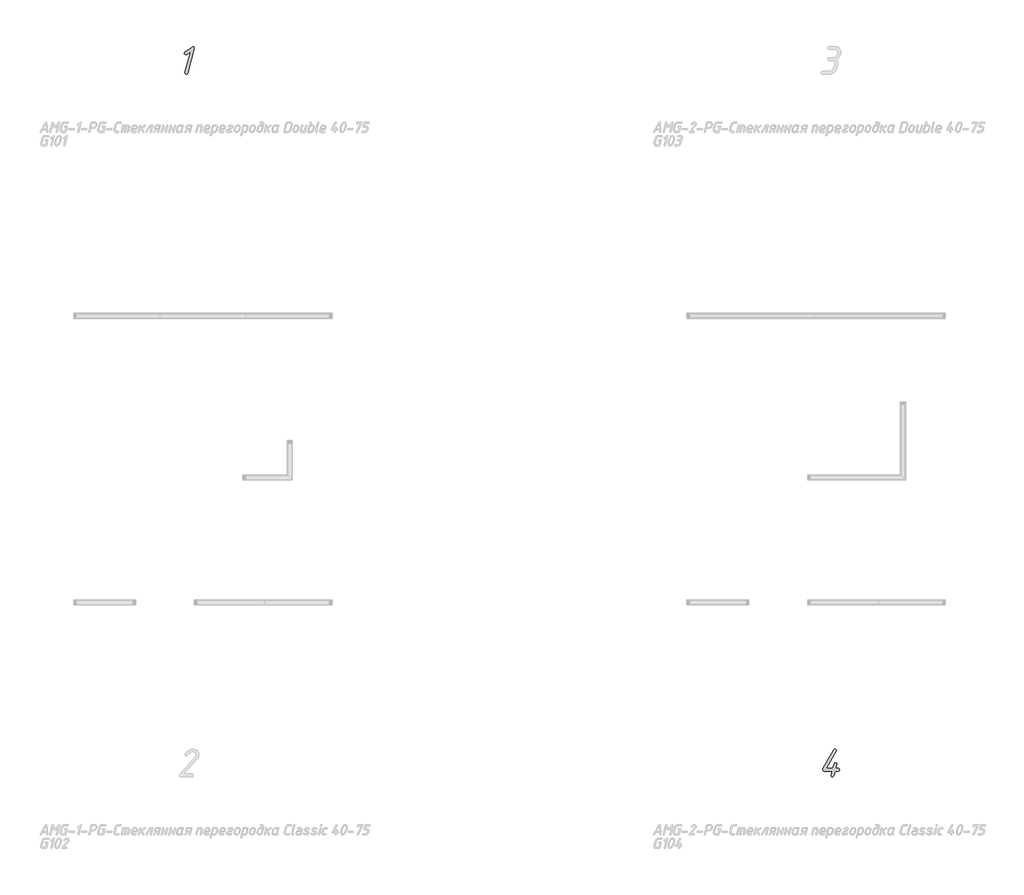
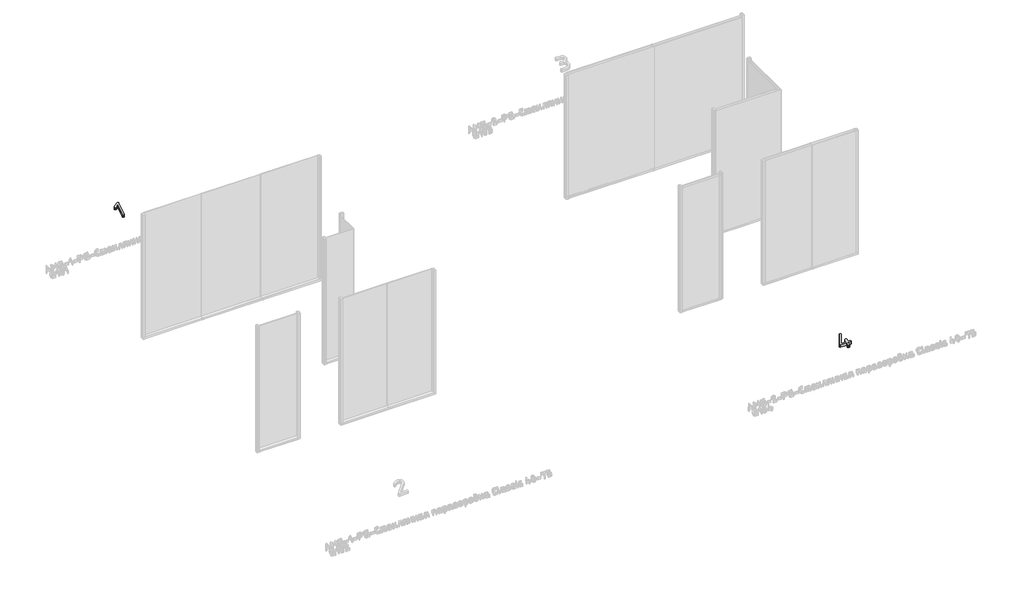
# One storey, part 19 of 22: 2 proxies.
"""IFC4 building model written with IfcOpenShell, lengths in millimetres."""

from ifc_helpers import new_model, si_unit, origin, origin_with_axes, place, context, project, spatial, polyline, outline, extrude, element, save

model = new_model("IFC4")

# Units and contexts
model_context = context("Model", 3, world=origin())
ifc_project = project(units=[si_unit("LENGTHUNIT", "METRE", prefix="MILLI")], contexts=[model_context])

# Site, building, storey
site = spatial("IfcSite", under=ifc_project)
building = spatial("IfcBuilding", under=site)
storey = spatial("IfcBuildingStorey", under=building, Name="Уровень 1", Elevation=0.0)

# Proxies
placement = place(None, origin())
element("IfcBuildingElementProxy", 1, Name="100", ObjectType="100", at=placement, inside=storey, context=model_context, shape_type="SweptSolid", body=[
    extrude(outline(polyline([(-34062.8648839, 1441.9285114), (-34120.075578, 1397.9284804), (-34134.9908428, 1393.986589), (-34148.4678499, 1401.3909525), (-34151.8903705, 1408.2759453), (-34152.2499349, 1416.4660237), (-34149.79957, 1423.7372153), (-34144.3661521, 1429.7832244), (-34040.1723739, 1507.3426012), (-34028.3466997, 1514.161008), (-34013.3248973, 1509.2070093), (-34008.3176298, 1494.3450134), (-34008.9568555, 1488.5919827), (-34105.5864637, 1126.7902743), (-34112.4847737, 1115.6038257), (-34124.6566951, 1111.8750095), (-34138.7729278, 1117.8411154), (-34145.0053777, 1131.3713913), (-34144.0465393, 1137.4440348), (-34062.8648839, 1441.9285114)])), origin_with_axes(), (0.0, 0.0, 1.0), 50.0),
])
element("IfcBuildingElementProxy", 2, Name="100", ObjectType="100", at=placement, inside=storey, context=model_context, shape_type="SweptSolid", body=[
    extrude(outline(polyline([(-24699.1646058, -8965.3936689), (-24663.3679704, -8965.3936689), (-24654.6052523, -8966.6721202), (-24648.346168, -8970.507474), (-24643.3389005, -8985.8488892), (-24648.346168, -9001.1903044), (-24654.6052523, -9005.0256582), (-24663.3679704, -9006.3041095), (-24709.7118288, -9006.3041095), (-24726.9709209, -9072.8901129), (-24733.7360588, -9084.3162711), (-24746.1476899, -9088.1249905), (-24755.1434589, -9086.8265634), (-24761.5690083, -9082.9312822), (-24765.4243379, -9076.4391469), (-24766.7094477, -9067.3501574), (-24766.0702221, -9062.4494276), (-24751.2614949, -9006.3041095), (-24870.3705379, -9006.3041095), (-24878.1211487, -9004.8259002), (-24884.5400395, -9000.3912724), (-24890.2930702, -8986.2750396), (-24887.62963, -8976.2605047), (-24729.7408986, -8695.8535269), (-24722.7094166, -8688.3426257), (-24712.4818065, -8685.838992), (-24697.2202945, -8690.7663563), (-24693.4049165, -8696.9255616), (-24692.1331239, -8705.548449), (-24694.9031016, -8715.4564463), (-24836.0654289, -8965.3936689), (-24740.6077344, -8965.3936689), (-24723.0290295, -8899.8730415), (-24716.2905259, -8889.0062058), (-24703.9587981, -8885.3839272), (-24688.7771893, -8890.2313882), (-24684.9817871, -8896.2907145), (-24683.716653, -8904.7737714), (-24684.249341, -8910.2071893), (-24699.1646058, -8965.3936689)])), origin_with_axes(), (0.0, 0.0, 1.0), 50.0),
])

save(model, "model.ifc")
